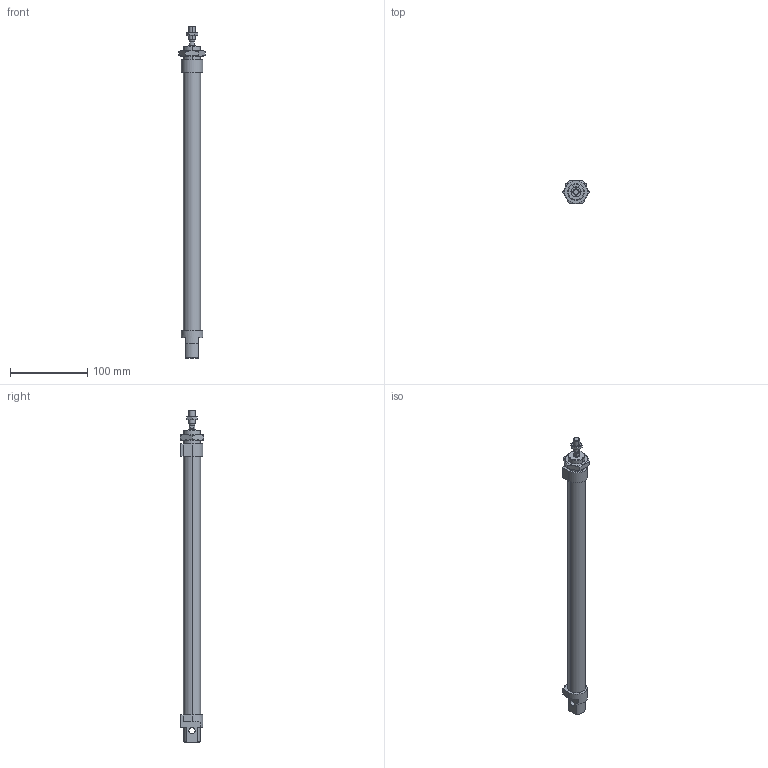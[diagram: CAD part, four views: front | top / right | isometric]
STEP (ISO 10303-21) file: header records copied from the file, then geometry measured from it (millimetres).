
FILE_DESCRIPTION((''),'2;1');
FILE_NAME('5226647000_ASM','2015-04-21T',('vol1hc'),(''),'PRO/ENGINEER BY PARAMETRIC TECHNOLOGY CORPORATION, 2009380','PRO/ENGINEER BY PARAMETRIC TECHNOLOGY CORPORATION, 2009380','');
FILE_SCHEMA(('CONFIG_CONTROL_DESIGN'));
Length unit declared in the file: millimetre
Products named in the file (5): 5226647000-A; 5226647000-B; 5226647000-C; 5226647000-D; 5226647000_ASM
Assembly tree (4 placements, depth 2):
  5226647000_ASM
    5226647000-A
    5226647000-B
    5226647000-C
    5226647000-D
Bounding box: 34.64 x 30 x 430 mm (x, y, z)
Volume: 85891.3 mm3; surface area: 68451.2 mm2
Topology: 4 solids, 4 shells, 126 faces, 286 edges, 178 vertices
Faces by surface type: plane 56, cylinder 34, cone 34, torus 2
Entity records: 4126 total; most frequent: CARTESIAN_POINT 1120, DIRECTION 630, ORIENTED_EDGE 572, EDGE_CURVE 286, AXIS2_PLACEMENT_3D 245, VERTEX_POINT 178, EDGE_LOOP 142, VECTOR 140
